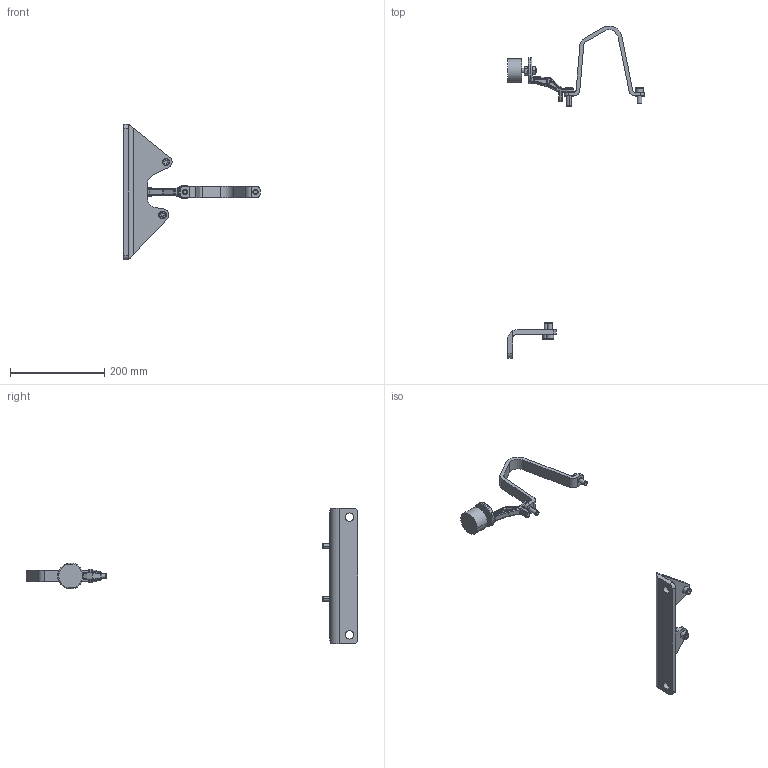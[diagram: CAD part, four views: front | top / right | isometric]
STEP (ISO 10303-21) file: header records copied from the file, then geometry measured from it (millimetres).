
FILE_DESCRIPTION (( 'STEP AP214' ), '1' );
FILE_NAME ('XFP81C-CB1 - Dry Horizontal.STEP', '2017-08-04T15:00:21', ( '' ), ( '' ), 'SwSTEP 2.0', 'SolidWorks 2017', '' );
FILE_SCHEMA (( 'AUTOMOTIVE_DESIGN' ));
Length unit declared in the file: inch
Products named in the file (1): XFP81C-CB1 - Dry Horizontal
Bounding box: 290 x 705.86 x 288 mm (x, y, z)
Volume: 481710.2 mm3; surface area: 122580.8 mm2
Topology: 2 solids, 3 shells, 640 faces, 1503 edges, 871 vertices
Faces by surface type: cylinder 231, bspline 210, plane 197, cone 2
Entity records: 242870 total; most frequent: CARTESIAN_POINT 135723, ORIENTED_EDGE 15396, DIRECTION 10507, EDGE_CURVE 7698, VERTEX_POINT 4586, AXIS2_PLACEMENT_3D 4114, EDGE_LOOP 3468, DIMENSIONAL_EXPONENTS 3309
